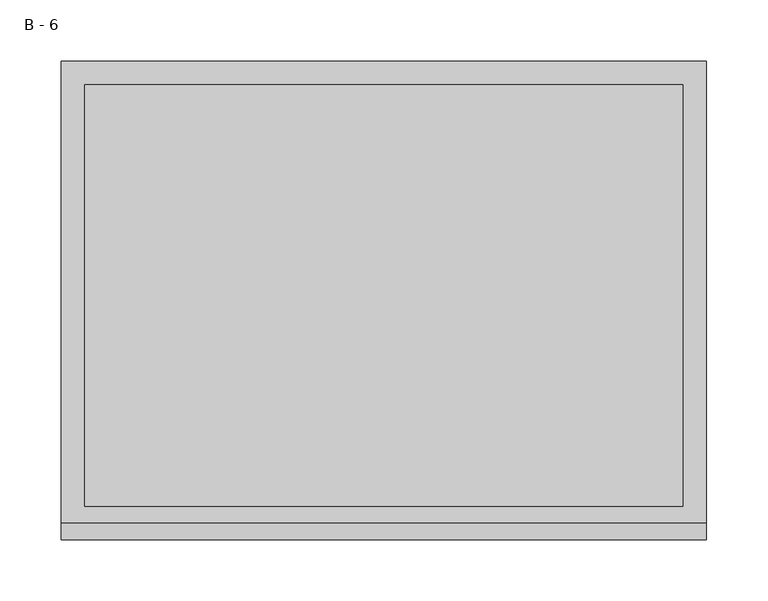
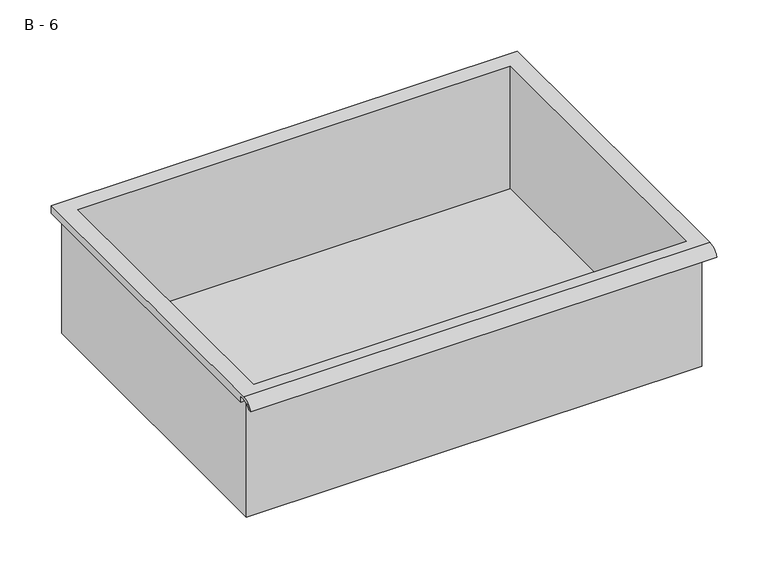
"""IFC4 building model written with IfcOpenShell, lengths in millimetres: furniture geometry, HermanMiller_CoStruc_CO207_Drawer : B - 6."""

from ifc_helpers import new_model, si_unit, frame, origin, place, context, project, spatial, polyline, circle_curve, source, transform, mapped, element, save
from ifc_brep_helpers import plane_surface, cylinder_surface, revolved_surface, advanced_brep


def b_6_e607353f(model_context):
    return source(origin(), model_context, "Body", "AdvancedBrep", [
        advanced_brep(
        [(-257.1076517, -176.2125, 256.38252), (257.2423483, -176.2125, 256.38252), (257.2423483, -176.2125, 396.08252), (263.5923483, -176.2125, 396.08252), (263.5923483, -176.2125, 402.3896541), (-263.4576517, -176.2125, 402.3896541), (-263.4576517, -176.2125, 396.08252), (-257.1076517, -176.2125, 396.08252), (257.2423483, 185.7375, 256.38252), (-257.1076517, 185.7375, 256.38252), (-257.1076517, 185.7375, 396.08252), (257.2423483, 185.7375, 396.08252), (263.5923483, -181.6070544, 405.60752), (263.5923483, 195.2625, 405.60752), (-263.4576517, 195.2625, 405.60752), (-263.4576517, -181.6070544, 405.60752), (244.5423483, -168.275, 405.60752), (-244.4076517, -168.275, 405.60752), (-244.4076517, 176.2125, 405.60752), (244.5423483, 176.2125, 405.60752), (263.5923483, -195.2625, 396.08252), (263.5923483, -191.8280601, 396.08252), (263.5923483, -180.4714815, 402.3896541), (263.5923483, 195.2625, 396.08252), (-263.4576517, 195.2625, 396.08252), (-263.4576517, -180.4714815, 402.3896541), (-263.4576517, -191.8280601, 396.08252), (-263.4576517, -195.2625, 396.08252), (-244.4076517, -168.275, 259.4086919), (244.5423483, -168.275, 259.4086919), (244.5423483, 176.2125, 259.4086919), (-244.4076517, 176.2125, 259.4086919)],
        [
            (0, 1),
            (1, 2),
            (2, 3),
            (3, 4),
            (4, 5),
            (5, 6),
            (6, 7),
            (7, 0),
            (8, 9),
            (9, 10),
            (10, 11),
            (11, 8),
            (0, 9),
            (8, 1),
            (11, 2),
            (12, 13),
            (13, 14),
            (14, 15),
            (15, 12),
            (16, 17),
            (17, 18),
            (18, 19),
            (19, 16),
            (7, 10),
            (12, 20, circle_curve(frame((263.5923483, -181.6070544, 391.0565059), z_axis=(1.0, 0.0, 0.0), x_axis=(0.0, 1.0, 0.0)), 14.5510141)),
            (20, 21),
            (21, 22, circle_curve(frame((263.5923483, -181.6070544, 391.0565059), z_axis=(-1.0, 0.0, 0.0), x_axis=(0.0, 1.0, 0.0)), 11.3898979)),
            (22, 4),
            (3, 23),
            (23, 13),
            (14, 24),
            (24, 6),
            (5, 25),
            (25, 26, circle_curve(frame((-263.4576517, -181.6070544, 391.0565059), z_axis=(1.0, 0.0, 0.0), x_axis=(0.0, 1.0, 0.0)), 11.3898979)),
            (26, 27),
            (27, 15, circle_curve(frame((-263.4576517, -181.6070544, 391.0565059), z_axis=(-1.0, 0.0, 0.0), x_axis=(0.0, 1.0, 0.0)), 14.5510141)),
            (27, 20),
            (26, 21),
            (25, 22),
            (24, 23),
            (28, 29),
            (29, 30),
            (30, 31),
            (31, 28),
            (28, 17),
            (16, 29),
            (19, 30),
            (18, 31),
        ],
        [
            plane_surface(frame((257.2423483, -176.2125, 256.38252), z_axis=(0.0, -1.0, 0.0), x_axis=(1.0, 0.0, 0.0))),
            plane_surface(frame((257.2423483, 185.7375, 256.38252), z_axis=(0.0, 1.0, 0.0), x_axis=(-1.0, 0.0, 0.0))),
            plane_surface(frame((-257.1076517, -176.2125, 256.38252), z_axis=(0.0, 0.0, -1.0), x_axis=(0.0, 1.0, 0.0))),
            plane_surface(frame((257.2423483, -176.2125, 256.38252), z_axis=(1.0, 0.0, 0.0), x_axis=(0.0, 1.0, 0.0))),
            plane_surface(frame((257.2423483, -176.2125, 405.60752), z_axis=(0.0, 0.0, 1.0), x_axis=(0.0, 1.0, 0.0))),
            plane_surface(frame((-257.1076517, -176.2125, 405.60752), z_axis=(-1.0, 0.0, 0.0), x_axis=(0.0, 1.0, 0.0))),
            plane_surface(frame((263.5923483, 195.2625, 405.60752), z_axis=(1.0, 0.0, 0.0), x_axis=(0.0, -1.0, 0.0))),
            plane_surface(frame((-263.4576517, 195.2625, 405.60752), z_axis=(-1.0, 0.0, 0.0), x_axis=(0.0, 1.0, 0.0))),
            cylinder_surface(frame((-263.4576517, -181.6070544, 391.0565059), z_axis=(1.0, 0.0, 0.0), x_axis=(0.0, 1.0, 0.0)), 14.5510141),
            plane_surface(frame((263.5923483, -195.2625, 396.08252), z_axis=(0.0, -7.25182118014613e-12, -1.0), x_axis=(-1.0, 0.0, 0.0))),
            revolved_surface(polyline([(-263.4576517, -170.21715650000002, 391.0565059), (263.59234829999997, -170.21715650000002, 391.0565059)]), (-263.4576517, -181.6070544, 391.0565059), (-1.0, 0.0, 0.0)),
            plane_surface(frame((263.5923483, -180.4714815, 402.3896541), z_axis=(0.0, -1.7956755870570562e-11, -1.0), x_axis=(-1.0, 0.0, 0.0))),
            plane_surface(frame((263.5923483, -176.2125, 396.08252), z_axis=(0.0, 0.0, -1.0), x_axis=(-1.0, 0.0, 0.0))),
            plane_surface(frame((263.5923483, 195.2625, 396.08252), z_axis=(0.0, 1.0, 0.0), x_axis=(-1.0, 0.0, 0.0))),
            plane_surface(frame((244.5423483, -168.275, 259.4086919), z_axis=(0.0, 0.0, 1.0), x_axis=(-1.0, 0.0, 0.0))),
            plane_surface(frame((-244.4076517, -168.275, 405.60752), z_axis=(0.0, 1.0, 0.0), x_axis=(0.0, 0.0, -1.0))),
            plane_surface(frame((244.5423483, -168.275, 405.60752), z_axis=(-1.0, 0.0, 0.0), x_axis=(0.0, 0.0, -1.0))),
            plane_surface(frame((244.5423483, 176.2125, 405.60752), z_axis=(0.0, -1.0, 0.0), x_axis=(0.0, 0.0, -1.0))),
            plane_surface(frame((-244.4076517, 176.2125, 405.60752), z_axis=(1.0, 0.0, 0.0), x_axis=(0.0, 0.0, -1.0))),
        ],
        [
            (0, [[1, 2, 3, 4, 5, 6, 7, 8]]),
            (1, [[9, 10, 11, 12]]),
            (2, [[-1, 13, -9, 14]]),
            (3, [[-14, -12, 15, -2]]),
            (4, [[16, 17, 18, 19], [20, 21, 22, 23]]),
            (5, [[-13, -8, 24, -10]]),
            (6, [[-16, 25, 26, 27, 28, -4, 29, 30]]),
            (7, [[31, 32, -6, 33, 34, 35, 36, -18]]),
            (8, [[-25, -19, -36, 37]]),
            (9, [[-26, -37, -35, 38]]),
            (10, [[-27, -38, -34, 39]]),
            (11, [[-28, -39, -33, -5]]),
            (12, [[-29, -3, -15, -11, -24, -7, -32, 40]]),
            (13, [[-30, -40, -31, -17]]),
            (14, [[41, 42, 43, 44]]),
            (15, [[-41, 45, -20, 46]]),
            (16, [[-42, -46, -23, 47]]),
            (17, [[-43, -47, -22, 48]]),
            (18, [[-44, -48, -21, -45]]),
        ],
    ),
    ])


if __name__ == "__main__":
    model = new_model("IFC4")
    model_context = context("Model", 3, world=origin())
    ifc_project = project(units=[si_unit("LENGTHUNIT", "METRE", prefix="MILLI")], contexts=[model_context])
    site = spatial("IfcSite", under=ifc_project)
    building = spatial("IfcBuilding", under=site)
    placement = place(None, origin())
    b_6_shape = b_6_e607353f(model_context)
    element("IfcFurniture", 1, ObjectType="HermanMiller_CoStruc_CO207_Drawer : B - 6", at=placement, inside=building, context=model_context, shape_type="MappedRepresentation", body=[
        mapped(b_6_shape, transform((0.0, 0.0, 0.0), x_axis=(1.0, 0.0, 0.0), y_axis=(0.0, 1.0, 0.0), z_axis=(0.0, 0.0, 1.0))),
    ])
    save(model, "model.ifc")
